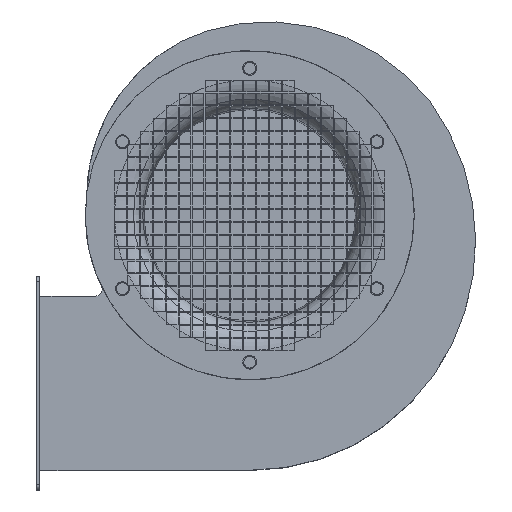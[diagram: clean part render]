
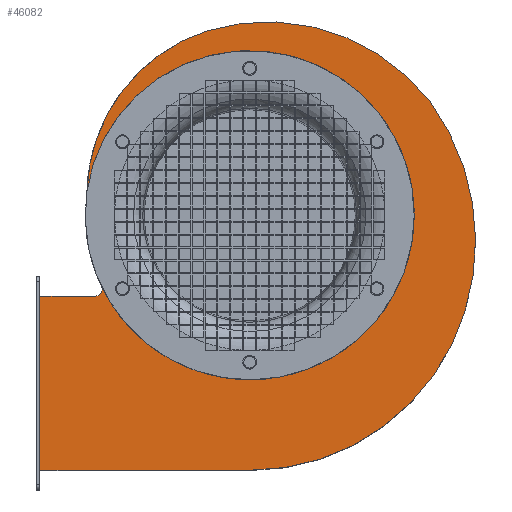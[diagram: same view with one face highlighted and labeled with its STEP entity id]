
A CAD part, top view. The second image highlights one B-rep face of the part: STEP entity #46082.
In plain terms, the highlighted planar face has unit normal (0, 0, 1).
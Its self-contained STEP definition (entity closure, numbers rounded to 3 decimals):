
#1278=CIRCLE('',#48259,140.);
#1280=CIRCLE('',#48262,190.933);
#1282=CIRCLE('',#48265,200.738);
#1284=CIRCLE('',#48268,174.741);
#1286=CIRCLE('',#48271,147.863);
#1288=CIRCLE('',#48275,7.);
#4714=PLANE('',#48298);
#6868=FACE_OUTER_BOUND('',#9772,.T.);
#9772=EDGE_LOOP('',(#43473,#43474,#43475,#43476,#43477,#43478,#43479,#43480,
#43481));
#10380=LINE('',#70220,#15460);
#14859=LINE('',#80064,#19939);
#14861=LINE('',#80067,#19941);
#15460=VECTOR('',#49342,10.);
#19939=VECTOR('',#57743,10.);
#19941=VECTOR('',#57747,10.);
#21578=VERTEX_POINT('',#70217);
#21579=VERTEX_POINT('',#70219);
#24724=VERTEX_POINT('',#79925);
#24725=VERTEX_POINT('',#79927);
#24744=VERTEX_POINT('',#79980);
#24745=VERTEX_POINT('',#79982);
#24747=VERTEX_POINT('',#79988);
#24749=VERTEX_POINT('',#79994);
#24753=VERTEX_POINT('',#80009);
#26161=EDGE_CURVE('',#21579,#21578,#10380,.T.);
#30970=EDGE_CURVE('',#24725,#24724,#1278,.T.);
#30973=EDGE_CURVE('',#24745,#24744,#1280,.T.);
#30977=EDGE_CURVE('',#24744,#24747,#1282,.T.);
#30980=EDGE_CURVE('',#24747,#24749,#1284,.T.);
#30983=EDGE_CURVE('',#24749,#24725,#1286,.T.);
#30988=EDGE_CURVE('',#24724,#24753,#1288,.T.);
#31015=EDGE_CURVE('',#24753,#21579,#14859,.T.);
#31017=EDGE_CURVE('',#21578,#24745,#14861,.T.);
#43473=ORIENTED_EDGE('',*,*,#26161,.T.);
#43474=ORIENTED_EDGE('',*,*,#31017,.T.);
#43475=ORIENTED_EDGE('',*,*,#30973,.T.);
#43476=ORIENTED_EDGE('',*,*,#30977,.T.);
#43477=ORIENTED_EDGE('',*,*,#30980,.T.);
#43478=ORIENTED_EDGE('',*,*,#30983,.T.);
#43479=ORIENTED_EDGE('',*,*,#30970,.T.);
#43480=ORIENTED_EDGE('',*,*,#30988,.T.);
#43481=ORIENTED_EDGE('',*,*,#31015,.T.);
#46082=ADVANCED_FACE('',(#6868),#4714,.T.);
#48259=AXIS2_PLACEMENT_3D('',#79975,#57641,#57642);
#48262=AXIS2_PLACEMENT_3D('',#79983,#57648,#57649);
#48265=AXIS2_PLACEMENT_3D('',#79990,#57656,#57657);
#48268=AXIS2_PLACEMENT_3D('',#79996,#57663,#57664);
#48271=AXIS2_PLACEMENT_3D('',#80001,#57670,#57671);
#48275=AXIS2_PLACEMENT_3D('',#80011,#57681,#57682);
#48298=AXIS2_PLACEMENT_3D('',#80066,#57745,#57746);
#49342=DIRECTION('',(0.,-1.,0.));
#57641=DIRECTION('center_axis',(0.,0.,-1.));
#57642=DIRECTION('ref_axis',(-1.,0.,0.));
#57648=DIRECTION('center_axis',(0.,0.,1.));
#57649=DIRECTION('ref_axis',(-0.003,-1.,0.));
#57656=DIRECTION('center_axis',(0.,0.,1.));
#57657=DIRECTION('ref_axis',(0.955,-0.297,0.));
#57663=DIRECTION('center_axis',(0.,0.,1.));
#57664=DIRECTION('ref_axis',(0.792,0.611,0.));
#57670=DIRECTION('center_axis',(0.,0.,1.));
#57671=DIRECTION('ref_axis',(-0.313,0.95,0.));
#57681=DIRECTION('center_axis',(0.,0.,-1.));
#57682=DIRECTION('ref_axis',(0.,1.,0.));
#57743=DIRECTION('',(-1.,0.,0.));
#57745=DIRECTION('center_axis',(0.,0.,1.));
#57746=DIRECTION('ref_axis',(1.,0.,0.));
#57747=DIRECTION('',(1.,0.,0.));
#70217=CARTESIAN_POINT('',(2652.37,20779.558,139.137));
#70219=CARTESIAN_POINT('',(2652.37,20927.558,139.137));
#70220=CARTESIAN_POINT('',(2652.37,20865.951,139.137));
#79925=CARTESIAN_POINT('',(2705.565,20934.119,139.137));
#79927=CARTESIAN_POINT('',(2692.34,21016.794,139.137));
#79975=CARTESIAN_POINT('Origin',(2830.87,20996.558,139.137));
#79980=CARTESIAN_POINT('',(3014.04,20915.017,139.137));
#79982=CARTESIAN_POINT('',(2830.865,20779.558,139.137));
#79983=CARTESIAN_POINT('Origin',(2831.343,20970.491,139.137));
#79988=CARTESIAN_POINT('',(2984.307,21093.138,139.137));
#79990=CARTESIAN_POINT('Origin',(2822.335,20974.559,139.137));
#79994=CARTESIAN_POINT('',(2793.875,21153.221,139.137));
#79996=CARTESIAN_POINT('Origin',(2845.942,20986.418,139.137));
#80001=CARTESIAN_POINT('Origin',(2840.148,21012.785,139.137));
#80009=CARTESIAN_POINT('',(2698.578,20927.558,139.137));
#80011=CARTESIAN_POINT('Origin',(2698.578,20934.558,139.137));
#80064=CARTESIAN_POINT('',(2698.578,20927.558,139.137));
#80066=CARTESIAN_POINT('Origin',(2824.033,20952.344,139.137));
#80067=CARTESIAN_POINT('',(2650.87,20779.558,139.137));
